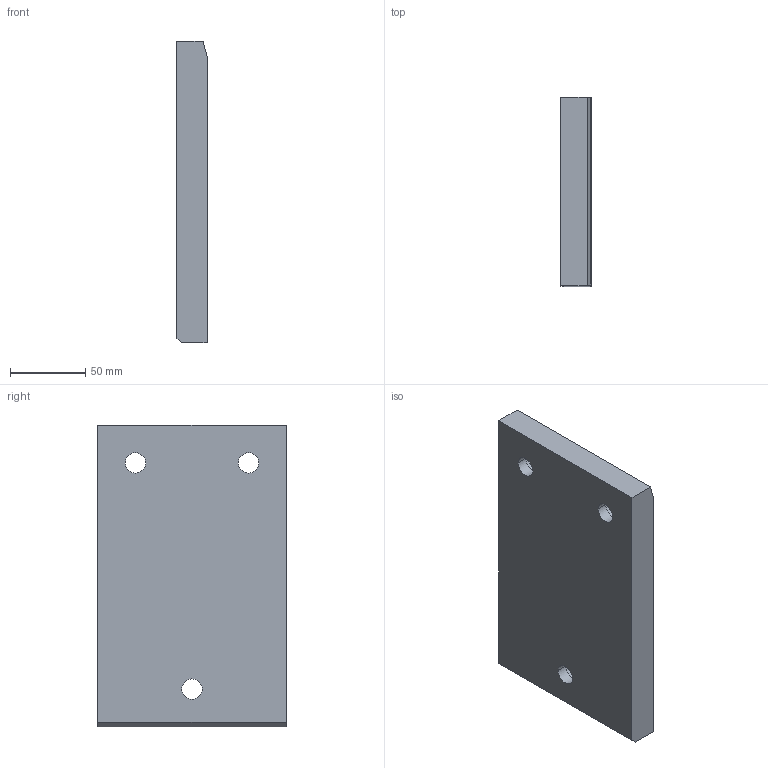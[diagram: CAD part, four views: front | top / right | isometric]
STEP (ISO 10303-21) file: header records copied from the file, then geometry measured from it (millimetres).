
FILE_DESCRIPTION (( 'STEP AP214' ), '1' );
FILE_NAME ('SW224-01-125x200.STEP', '2020-10-14T13:59:48', ( 'August' ), ( '' ), 'SwSTEP 2.0', 'SolidWorks 2018', '' );
FILE_SCHEMA (( 'AUTOMOTIVE_DESIGN' ));
Length unit declared in the file: millimetre
Products named in the file (1): SW224-01-125x200
Bounding box: 20 x 125 x 200 mm (x, y, z)
Volume: 424044.8 mm3; surface area: 88254.2 mm2
Topology: 1 solids, 1 shells, 270 faces, 549 edges, 364 vertices
Faces by surface type: cylinder 173, plane 91, cone 6
Entity records: 7633 total; most frequent: DIRECTION 1443, CARTESIAN_POINT 1184, ORIENTED_EDGE 1098, AXIS2_PLACEMENT_3D 623, EDGE_CURVE 549, VERTEX_POINT 364, EDGE_LOOP 359, CIRCLE 352
